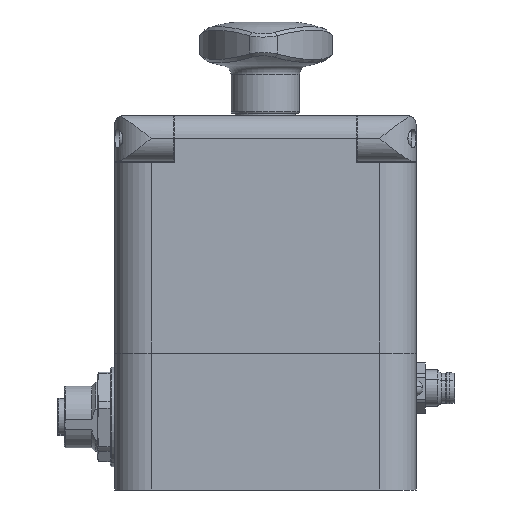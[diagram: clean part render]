
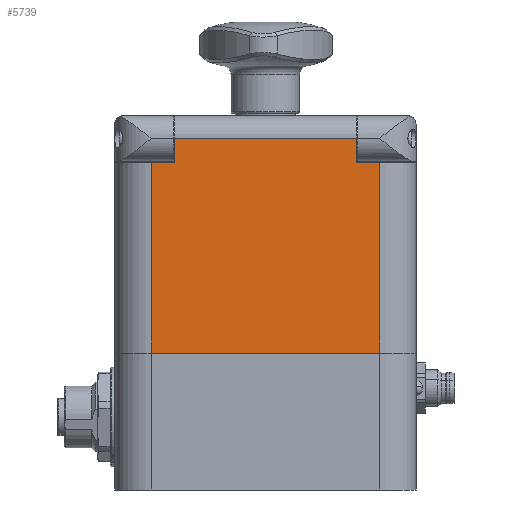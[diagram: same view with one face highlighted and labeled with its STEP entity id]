
A CAD part, front view. The second image highlights one B-rep face of the part: STEP entity #5739.
In plain terms, the highlighted planar face has unit normal (0, -1, 0) as drawn and (0, 0, -1) by its records, which use the part's own axes.
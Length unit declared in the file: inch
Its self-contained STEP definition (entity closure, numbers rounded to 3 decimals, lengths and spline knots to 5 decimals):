
#924 = LINE ( 'NONE', #20491, #28608 ) ;
#1639 = CARTESIAN_POINT ( 'NONE',  ( 2.59843, 1.1811, -2.28346 ) ) ;
#2207 = LINE ( 'NONE', #4847, #36475 ) ;
#2531 = VERTEX_POINT ( 'NONE', #7632 ) ;
#2936 = ORIENTED_EDGE ( 'NONE', *, *, #27942, .T. ) ;
#3162 = VECTOR ( 'NONE', #15126, 39.37008 ) ;
#4451 = DIRECTION ( 'NONE',  ( -1., 0., 0. ) ) ;
#4847 = CARTESIAN_POINT ( 'NONE',  ( 2.59843, 2.82283, -2.28346 ) ) ;
#4932 = VERTEX_POINT ( 'NONE', #19912 ) ;
#5256 = VERTEX_POINT ( 'NONE', #37404 ) ;
#5512 = VECTOR ( 'NONE', #32624, 39.37008 ) ;
#5612 = VECTOR ( 'NONE', #35082, 39.37008 ) ;
#5739 = ADVANCED_FACE ( 'NONE', ( #35103 ), #16370, .F. ) ;
#6368 = EDGE_CURVE ( 'NONE', #22299, #5256, #32216, .T. ) ;
#6956 = CARTESIAN_POINT ( 'NONE',  ( 2.59843, 2.83465, -2.28346 ) ) ;
#7357 = LINE ( 'NONE', #26341, #17395 ) ;
#7364 = DIRECTION ( 'NONE',  ( 0., 0., 1. ) ) ;
#7425 = DIRECTION ( 'NONE',  ( 1., 0., 0. ) ) ;
#7556 = DIRECTION ( 'NONE',  ( 0., -1., 0. ) ) ;
#7632 = CARTESIAN_POINT ( 'NONE',  ( 2.28346, 2.82283, -2.28346 ) ) ;
#8089 = CARTESIAN_POINT ( 'NONE',  ( 2.08661, 3.22835, -2.28346 ) ) ;
#9870 = VECTOR ( 'NONE', #25819, 39.37008 ) ;
#9937 = EDGE_CURVE ( 'NONE', #22299, #33320, #13373, .T. ) ;
#12034 = AXIS2_PLACEMENT_3D ( 'NONE', #6956, #7364, #19817 ) ;
#12253 = CARTESIAN_POINT ( 'NONE',  ( 0.51181, 3.22835, -2.28346 ) ) ;
#13373 = LINE ( 'NONE', #25420, #9870 ) ;
#15054 = ORIENTED_EDGE ( 'NONE', *, *, #30146, .F. ) ;
#15126 = DIRECTION ( 'NONE',  ( 0., -1., 0. ) ) ;
#15821 = ORIENTED_EDGE ( 'NONE', *, *, #9937, .T. ) ;
#16370 = PLANE ( 'NONE',  #12034 ) ;
#16901 = DIRECTION ( 'NONE',  ( 0., -1., 0. ) ) ;
#16906 = EDGE_CURVE ( 'NONE', #2531, #28250, #29388, .T. ) ;
#17395 = VECTOR ( 'NONE', #7556, 39.37008 ) ;
#18921 = CARTESIAN_POINT ( 'NONE',  ( 0.51181, 2.82283, -2.28346 ) ) ;
#19817 = DIRECTION ( 'NONE',  ( -1., 0., 0. ) ) ;
#19912 = CARTESIAN_POINT ( 'NONE',  ( 0.51181, 3.0315, -2.28346 ) ) ;
#20491 = CARTESIAN_POINT ( 'NONE',  ( 2.59843, 3.0315, -2.28346 ) ) ;
#20745 = EDGE_CURVE ( 'NONE', #34890, #33320, #2207, .T. ) ;
#22299 = VERTEX_POINT ( 'NONE', #26887 ) ;
#23344 = EDGE_CURVE ( 'NONE', #2531, #5256, #7357, .T. ) ;
#23659 = ORIENTED_EDGE ( 'NONE', *, *, #6368, .F. ) ;
#24798 = CARTESIAN_POINT ( 'NONE',  ( 0.31496, 2.82283, -2.28346 ) ) ;
#24898 = LINE ( 'NONE', #12253, #3162 ) ;
#25420 = CARTESIAN_POINT ( 'NONE',  ( 0.31496, 2.83465, -2.28346 ) ) ;
#25486 = ORIENTED_EDGE ( 'NONE', *, *, #20745, .F. ) ;
#25819 = DIRECTION ( 'NONE',  ( 0., 1., 0. ) ) ;
#25918 = CARTESIAN_POINT ( 'NONE',  ( 2.59843, 2.82283, -2.28346 ) ) ;
#26341 = CARTESIAN_POINT ( 'NONE',  ( 2.28346, 1.14173, -2.28346 ) ) ;
#26512 = EDGE_CURVE ( 'NONE', #30478, #28250, #32567, .T. ) ;
#26887 = CARTESIAN_POINT ( 'NONE',  ( 0.31496, 1.1811, -2.28346 ) ) ;
#27857 = VECTOR ( 'NONE', #16901, 39.37008 ) ;
#27942 = EDGE_CURVE ( 'NONE', #4932, #30478, #924, .T. ) ;
#28026 = ORIENTED_EDGE ( 'NONE', *, *, #16906, .F. ) ;
#28250 = VERTEX_POINT ( 'NONE', #32516 ) ;
#28608 = VECTOR ( 'NONE', #7425, 39.37008 ) ;
#29388 = LINE ( 'NONE', #25918, #5512 ) ;
#30146 = EDGE_CURVE ( 'NONE', #4932, #34890, #24898, .T. ) ;
#30478 = VERTEX_POINT ( 'NONE', #37082 ) ;
#31853 = ORIENTED_EDGE ( 'NONE', *, *, #23344, .T. ) ;
#32216 = LINE ( 'NONE', #1639, #5612 ) ;
#32516 = CARTESIAN_POINT ( 'NONE',  ( 2.08661, 2.82283, -2.28346 ) ) ;
#32567 = LINE ( 'NONE', #8089, #27857 ) ;
#32624 = DIRECTION ( 'NONE',  ( -1., 0., 0. ) ) ;
#33320 = VERTEX_POINT ( 'NONE', #24798 ) ;
#34296 = ORIENTED_EDGE ( 'NONE', *, *, #26512, .T. ) ;
#34369 = EDGE_LOOP ( 'NONE', ( #23659, #15821, #25486, #15054, #2936, #34296, #28026, #31853 ) ) ;
#34890 = VERTEX_POINT ( 'NONE', #18921 ) ;
#35082 = DIRECTION ( 'NONE',  ( 1., 0., 0. ) ) ;
#35103 = FACE_OUTER_BOUND ( 'NONE', #34369, .T. ) ;
#36475 = VECTOR ( 'NONE', #4451, 39.37008 ) ;
#37082 = CARTESIAN_POINT ( 'NONE',  ( 2.08661, 3.0315, -2.28346 ) ) ;
#37404 = CARTESIAN_POINT ( 'NONE',  ( 2.28346, 1.1811, -2.28346 ) ) ;
